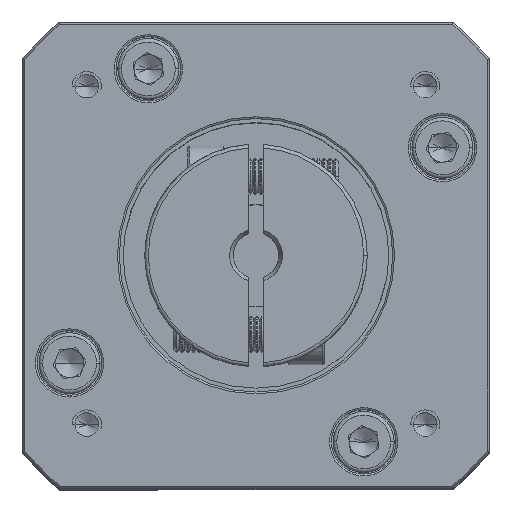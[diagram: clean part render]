
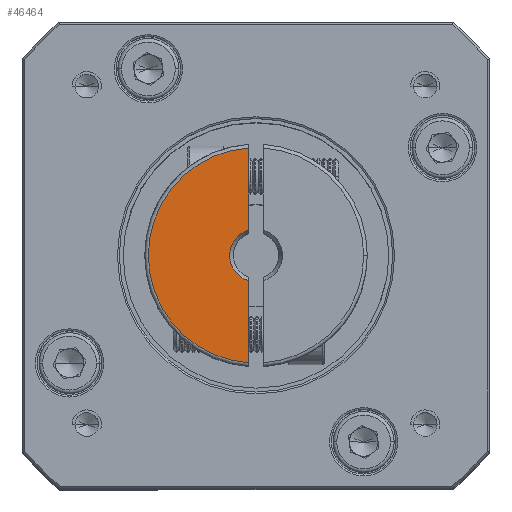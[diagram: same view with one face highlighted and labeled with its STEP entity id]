
A CAD part, top view. The second image highlights one B-rep face of the part: STEP entity #46464.
In plain terms, the highlighted planar face has unit normal (0, 0, 1).
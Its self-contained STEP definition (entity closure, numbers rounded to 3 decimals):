
#312 = DIRECTION ( 'NONE',  ( 0., 0., 1. ) ) ;
#590 = EDGE_CURVE ( 'NONE', #79012, #34025, #49505, .T. ) ;
#7371 = PLANE ( 'NONE',  #64444 ) ;
#8799 = VECTOR ( 'NONE', #81135, 1000. ) ;
#18023 = EDGE_CURVE ( 'NONE', #62596, #93347, #67186, .T. ) ;
#18597 = ORIENTED_EDGE ( 'NONE', *, *, #76165, .F. ) ;
#20648 = ORIENTED_EDGE ( 'NONE', *, *, #72050, .F. ) ;
#26016 = DIRECTION ( 'NONE',  ( 0., 0., 1. ) ) ;
#34025 = VERTEX_POINT ( 'NONE', #35082 ) ;
#35082 = CARTESIAN_POINT ( 'NONE',  ( -32.792, 6.956, 168.608 ) ) ;
#45570 = FACE_OUTER_BOUND ( 'NONE', #117617, .T. ) ;
#46464 = ADVANCED_FACE ( 'NONE', ( #45570 ), #7371, .T. ) ;
#47825 = DIRECTION ( 'NONE',  ( 1., 0., 0. ) ) ;
#48319 = DIRECTION ( 'NONE',  ( 1., 0., 0. ) ) ;
#49505 = CIRCLE ( 'NONE', #98703, 3.675 ) ;
#55087 = LINE ( 'NONE', #72790, #8799 ) ;
#57024 = CARTESIAN_POINT ( 'NONE',  ( -31.792, 3.419, 168.608 ) ) ;
#57100 = CARTESIAN_POINT ( 'NONE',  ( -31.792, 3.419, 168.608 ) ) ;
#58345 = CARTESIAN_POINT ( 'NONE',  ( -32.792, -11.547, 168.608 ) ) ;
#62596 = VERTEX_POINT ( 'NONE', #116662 ) ;
#64027 = CARTESIAN_POINT ( 'NONE',  ( -31.792, 3.419, 168.608 ) ) ;
#64444 = AXIS2_PLACEMENT_3D ( 'NONE', #64027, #26016, #74794 ) ;
#67186 = CIRCLE ( 'NONE', #91458, 15. ) ;
#72050 = EDGE_CURVE ( 'NONE', #79012, #93347, #55087, .T. ) ;
#72790 = CARTESIAN_POINT ( 'NONE',  ( -32.792, -13.069, 168.608 ) ) ;
#74794 = DIRECTION ( 'NONE',  ( 1., 0., 0. ) ) ;
#75055 = DIRECTION ( 'NONE',  ( 0., -1., 0. ) ) ;
#76165 = EDGE_CURVE ( 'NONE', #62596, #34025, #111466, .T. ) ;
#78410 = ORIENTED_EDGE ( 'NONE', *, *, #590, .T. ) ;
#79012 = VERTEX_POINT ( 'NONE', #103026 ) ;
#81135 = DIRECTION ( 'NONE',  ( 0., -1., 0. ) ) ;
#86253 = DIRECTION ( 'NONE',  ( 0., 0., -1. ) ) ;
#91458 = AXIS2_PLACEMENT_3D ( 'NONE', #57024, #312, #47825 ) ;
#93347 = VERTEX_POINT ( 'NONE', #58345 ) ;
#98703 = AXIS2_PLACEMENT_3D ( 'NONE', #57100, #86253, #48319 ) ;
#99457 = VECTOR ( 'NONE', #75055, 1000. ) ;
#102656 = CARTESIAN_POINT ( 'NONE',  ( -32.792, -13.069, 168.608 ) ) ;
#103026 = CARTESIAN_POINT ( 'NONE',  ( -32.792, -0.117, 168.608 ) ) ;
#108723 = ORIENTED_EDGE ( 'NONE', *, *, #18023, .T. ) ;
#111466 = LINE ( 'NONE', #102656, #99457 ) ;
#116662 = CARTESIAN_POINT ( 'NONE',  ( -32.792, 18.386, 168.608 ) ) ;
#117617 = EDGE_LOOP ( 'NONE', ( #18597, #108723, #20648, #78410 ) ) ;
